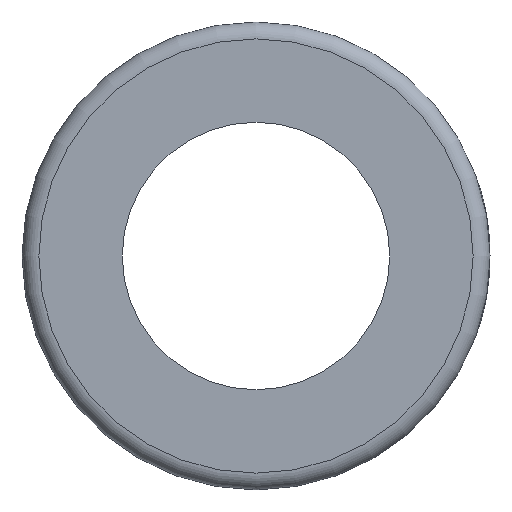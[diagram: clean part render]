
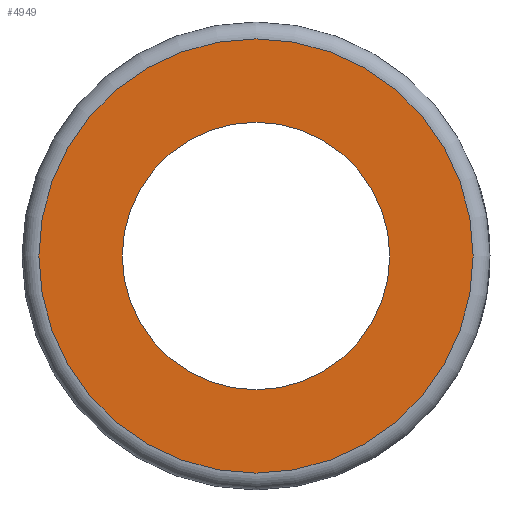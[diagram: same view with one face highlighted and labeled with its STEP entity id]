
A CAD part, left-side view. The second image highlights one B-rep face of the part: STEP entity #4949.
In plain terms, the highlighted planar face has unit normal (-1, 0, 0).
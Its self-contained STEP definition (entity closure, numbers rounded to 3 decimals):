
#119=PLANE('',#5337);
#341=CIRCLE('',#5338,10.313);
#342=CIRCLE('',#5339,6.35);
#1453=ORIENTED_EDGE('',*,*,#2939,.T.);
#1454=ORIENTED_EDGE('',*,*,#2940,.T.);
#2939=EDGE_CURVE('',#3682,#3682,#341,.F.);
#2940=EDGE_CURVE('',#3683,#3683,#342,.T.);
#3682=VERTEX_POINT('',#7733);
#3683=VERTEX_POINT('',#7735);
#4193=EDGE_LOOP('',(#1453));
#4194=EDGE_LOOP('',(#1454));
#4564=FACE_BOUND('',#4193,.T.);
#4565=FACE_BOUND('',#4194,.T.);
#4949=ADVANCED_FACE('',(#4564,#4565),#119,.F.);
#5337=AXIS2_PLACEMENT_3D('',#7731,#5846,#5847);
#5338=AXIS2_PLACEMENT_3D('',#7732,#5848,#5849);
#5339=AXIS2_PLACEMENT_3D('',#7734,#5850,#5851);
#5846=DIRECTION('',(1.,0.,0.));
#5847=DIRECTION('',(0.,0.,-1.));
#5848=DIRECTION('',(1.,0.,0.));
#5849=DIRECTION('',(0.,0.,-1.));
#5850=DIRECTION('',(1.,0.,0.));
#5851=DIRECTION('',(0.,0.,-1.));
#7731=CARTESIAN_POINT('',(-15.875,0.,0.));
#7732=CARTESIAN_POINT('',(-15.875,0.,0.));
#7733=CARTESIAN_POINT('',(-15.875,0.,-10.313));
#7734=CARTESIAN_POINT('',(-15.875,0.,0.));
#7735=CARTESIAN_POINT('',(-15.875,0.,-6.35));
